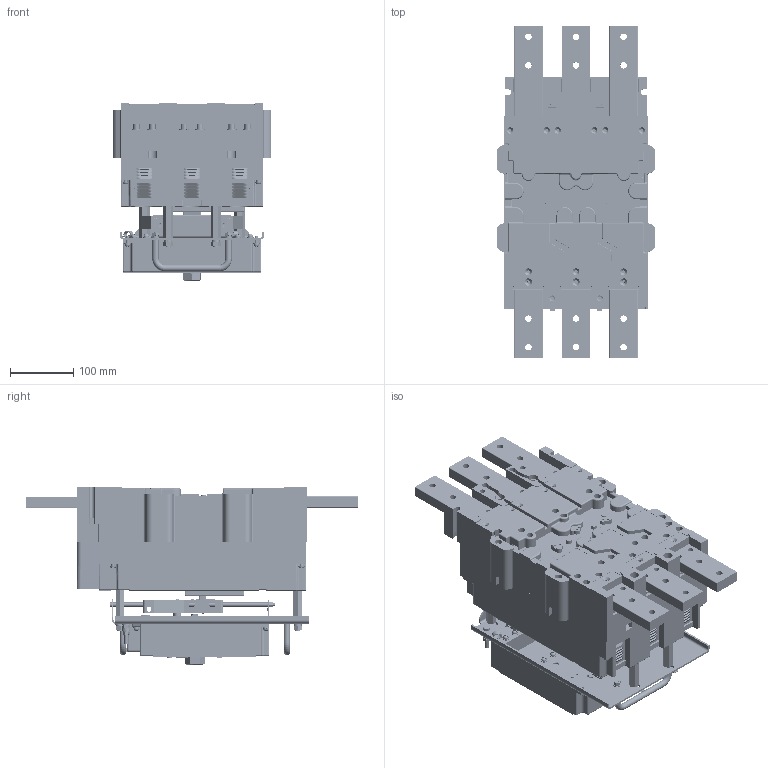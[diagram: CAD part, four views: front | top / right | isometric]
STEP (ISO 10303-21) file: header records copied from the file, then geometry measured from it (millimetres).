
FILE_DESCRIPTION (( 'STEP AP203' ), '1' );
FILE_NAME ('ÂÀ55-41 ñ ÝÌÏ.STEP', '2016-09-28T08:32:20', ( 'admin' ), ( '' ), 'SwSTEP 2.0', 'SolidWorks 2012', '' );
FILE_SCHEMA (( 'CONFIG_CONTROL_DESIGN' ));
Length unit declared in the file: millimetre
Products named in the file (1): ÂÀ55-41 ñ ÝÌÏ
Bounding box: 250 x 523 x 279.15 mm (x, y, z)
Volume: 12434097 mm3; surface area: 1877803.7 mm2
Topology: 339 solids, 341 shells, 11663 faces, 29370 edges, 18815 vertices
Faces by surface type: plane 6125, cylinder 3067, bspline 1415, cone 650, torus 310, sphere 96
Entity records: 444615 total; most frequent: CARTESIAN_POINT 171657, ORIENTED_EDGE 58588, DIRECTION 52751, EDGE_CURVE 29294, VERTEX_POINT 18815, LINE 18147, VECTOR 18147, AXIS2_PLACEMENT_3D 17302
